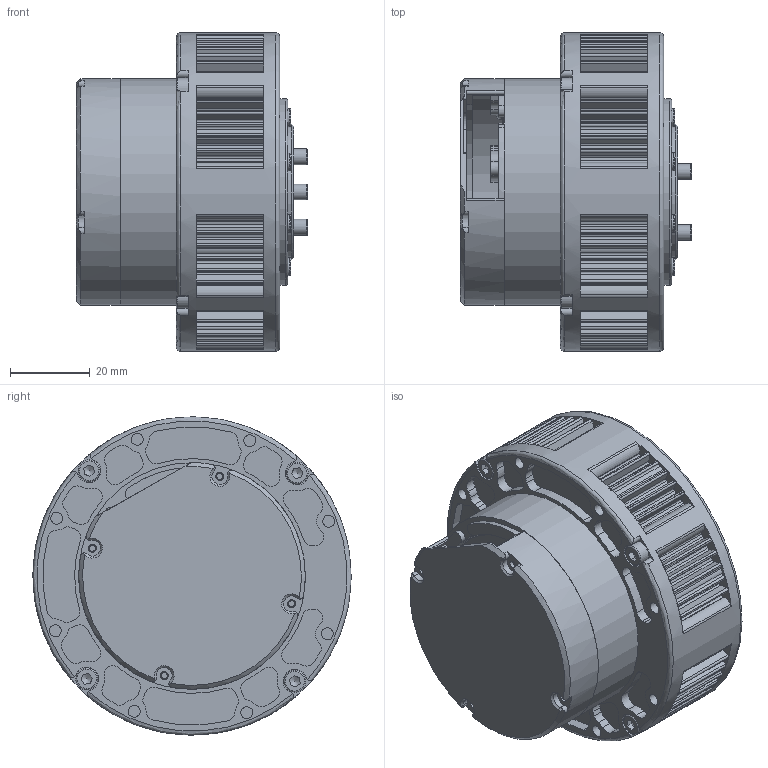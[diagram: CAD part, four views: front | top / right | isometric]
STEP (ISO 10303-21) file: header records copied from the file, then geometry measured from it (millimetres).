
FILE_DESCRIPTION(/* description */ (''),/* implementation_level */ '2;1');
FILE_NAME(/* name */ '',/* time_stamp */ '2024-02-02T11:27:11+08:00',/* author */ ('Admin'),/* organization */ (''),/* preprocessor_version */ 'ST-DEVELOPER v19.2',/* originating_system */ 'Autodesk Inventor 2024',/* authorisation */ '');
FILE_SCHEMA (('CONFIG_CONTROL_DESIGN'));
Length unit declared in the file: millimetre
Products named in the file (3): 6010-8刹车安装尺寸图; 6010-8刹车_简化_1; V5驱动盖
Assembly tree (2 placements, depth 2):
  6010-8刹车安装尺寸图
    6010-8刹车_简化_1
    V5驱动盖
Bounding box: 58.1 x 79.99 x 79.99 mm (x, y, z)
Volume: 159968.4 mm3; surface area: 47957.6 mm2
Topology: 2 solids, 2 shells, 1154 faces, 3078 edges, 2047 vertices
Faces by surface type: cylinder 625, plane 461, cone 44, torus 21, bspline 3
Full cylindrical faces by diameter (mm): 1.567 x12, 2 x4, 2.459 x6, 3 x19, 4 x3, 4.5 x8, 5.5 x4, 5.7 x3, 6 x1, 9 x1, 18 x1, 34 x1, 47 x1, 48.6 x1, 57 x1, 80 x1
Entity records: 37126 total; most frequent: DIRECTION 6850, CARTESIAN_POINT 6823, ORIENTED_EDGE 6148, EDGE_CURVE 3074, AXIS2_PLACEMENT_3D 2723, VERTEX_POINT 2047, CIRCLE 1567, LINE 1404
